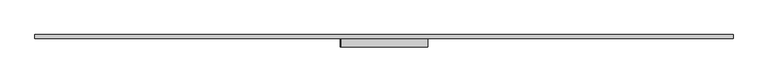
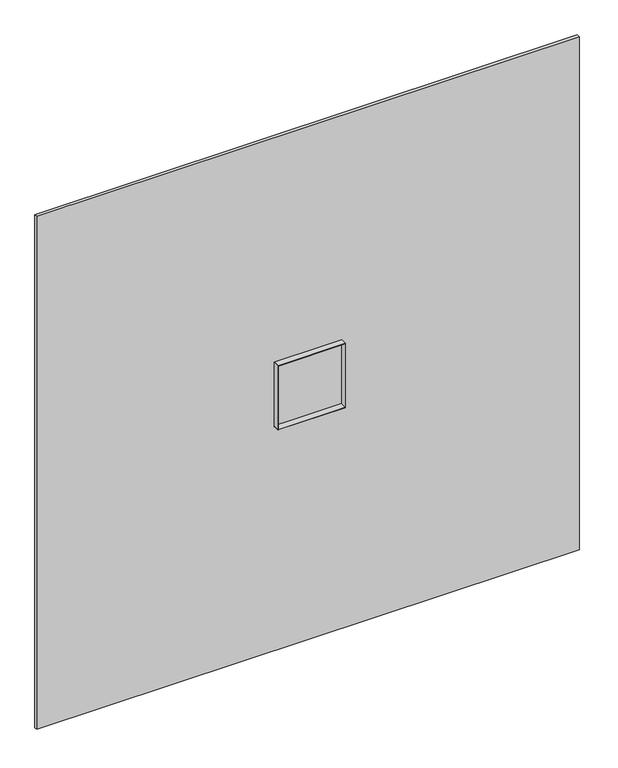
"""IFC4 building model written with IfcOpenShell, lengths in millimetres: proxy geometry, AERO^TABLE 2_ATS1S-4848^ATS1SD-6060-TOP03."""

from ifc_helpers import new_model, si_unit, frame, origin, place, context, project, spatial, polyline, outline, extrude, source, transform, mapped, element, save


def generic_models_b83a9f62(model_context):
    return source(origin(), model_context, "Body", "SweptSolid", [
        extrude(outline(polyline([(1200.15, 965.2), (-628.65, 965.2), (-628.65, 974.725), (1200.15, 974.725), (1200.15, 965.2)])), frame((0.0, 0.0, -933.45), z_axis=(0.0, 0.0, 1.0), x_axis=(1.0, 0.0, 0.0)), (0.0, 0.0, 1.0), 1828.8),
        extrude(outline(polyline([(171.45, 942.975), (171.45, 974.725), (173.0375, 974.725), (173.0375, 942.975), (171.45, 942.975)])), frame((0.0, 0.0, -131.7625), z_axis=(0.0, 0.0, 1.0), x_axis=(1.0, 0.0, 0.0)), (0.0, 0.0, 1.0), 227.0125),
        extrude(outline(polyline([(398.4625, 942.975), (398.4625, 974.725), (400.05, 974.725), (400.05, 942.975), (398.4625, 942.975)])), frame((0.0, 0.0, -133.35), z_axis=(0.0, 0.0, 1.0), x_axis=(1.0, 0.0, 0.0)), (0.0, 0.0, 1.0), 227.0125),
        extrude(outline(polyline([(400.05, 942.975), (173.0375, 942.975), (173.0375, 974.725), (400.05, 974.725), (400.05, 942.975)])), frame((0.0, 0.0, 93.6625), z_axis=(0.0, 0.0, 1.0), x_axis=(1.0, 0.0, 0.0)), (0.0, 0.0, 1.0), 1.5875),
        extrude(outline(polyline([(398.4625, 942.975), (171.45, 942.975), (171.45, 974.725), (398.4625, 974.725), (398.4625, 942.975)])), frame((0.0, 0.0, -133.35), z_axis=(0.0, 0.0, 1.0), x_axis=(1.0, 0.0, 0.0)), (0.0, 0.0, 1.0), 1.5875),
    ])


if __name__ == "__main__":
    model = new_model("IFC4")
    model_context = context("Model", 3, world=origin())
    ifc_project = project(units=[si_unit("LENGTHUNIT", "METRE", prefix="MILLI")], contexts=[model_context])
    site = spatial("IfcSite", under=ifc_project)
    building = spatial("IfcBuilding", under=site)
    placement = place(None, origin())
    generic_models_shape = generic_models_b83a9f62(model_context)
    element("IfcBuildingElementProxy", 1, Name="AERO^TABLE 2_ATS1S-4848^ATS1SD-6060-TOP03", ObjectType="AERO^TABLE 2_ATS1S-4848^ATS1SD-6060-TOP03", at=placement, inside=building, context=model_context, shape_type="MappedRepresentation", body=[
        mapped(generic_models_shape, transform((0.0, 0.0, 0.0), x_axis=(1.0, 0.0, 0.0), y_axis=(0.0, 1.0, 0.0), z_axis=(0.0, 0.0, 1.0))),
    ])
    save(model, "model.ifc")
